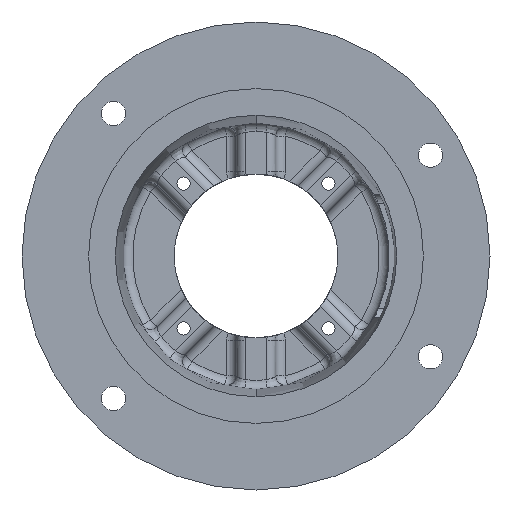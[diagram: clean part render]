
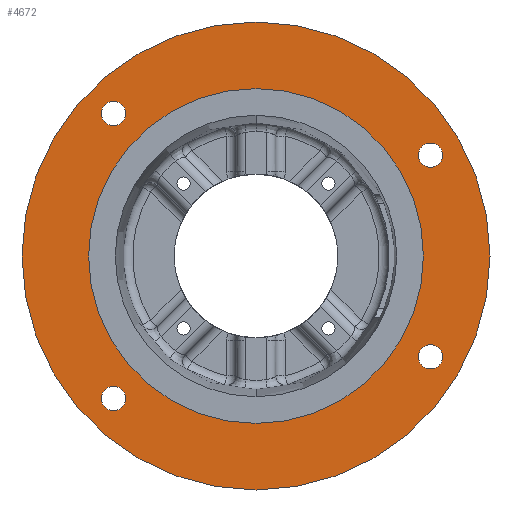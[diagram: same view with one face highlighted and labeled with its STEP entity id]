
A CAD part, front view. The second image highlights one B-rep face of the part: STEP entity #4672.
In plain terms, the highlighted planar face has unit normal (0, -1, 0).
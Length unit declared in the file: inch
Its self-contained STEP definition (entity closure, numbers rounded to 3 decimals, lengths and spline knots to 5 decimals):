
#104 = EDGE_LOOP ( 'NONE', ( #2105, #206 ) ) ;
#183 = CIRCLE ( 'NONE', #6042, 3.2195 ) ;
#206 = ORIENTED_EDGE ( 'NONE', *, *, #294, .F. ) ;
#294 = EDGE_CURVE ( 'NONE', #3599, #5653, #3056, .T. ) ;
#295 = CARTESIAN_POINT ( 'NONE',  ( 0., 0., -4.5 ) ) ;
#361 = CARTESIAN_POINT ( 'NONE',  ( 0., 0., -3.2195 ) ) ;
#370 = ORIENTED_EDGE ( 'NONE', *, *, #3807, .F. ) ;
#421 = ORIENTED_EDGE ( 'NONE', *, *, #2119, .F. ) ;
#427 = EDGE_CURVE ( 'NONE', #2484, #4264, #2728, .T. ) ;
#430 = DIRECTION ( 'NONE',  ( 0., -1., 0. ) ) ;
#449 = CARTESIAN_POINT ( 'NONE',  ( 3.35585, 0., -2.17187 ) ) ;
#458 = CARTESIAN_POINT ( 'NONE',  ( -2.74004, 0., -2.97441 ) ) ;
#573 = AXIS2_PLACEMENT_3D ( 'NONE', #2846, #6318, #3346 ) ;
#578 = CIRCLE ( 'NONE', #5591, 4.5 ) ;
#608 = CARTESIAN_POINT ( 'NONE',  ( -2.74004, 0., 2.74004 ) ) ;
#736 = CARTESIAN_POINT ( 'NONE',  ( 0., 0., 0. ) ) ;
#787 = DIRECTION ( 'NONE',  ( 0., -1., 0. ) ) ;
#865 = CIRCLE ( 'NONE', #2698, 0.23437 ) ;
#874 = EDGE_CURVE ( 'NONE', #3558, #6349, #1633, .T. ) ;
#998 = EDGE_CURVE ( 'NONE', #5653, #3599, #865, .T. ) ;
#1080 = CARTESIAN_POINT ( 'NONE',  ( -2.74004, 0., 2.50566 ) ) ;
#1089 = DIRECTION ( 'NONE',  ( 0., 0., -1. ) ) ;
#1219 = DIRECTION ( 'NONE',  ( 0., 0., -1. ) ) ;
#1239 = FACE_BOUND ( 'NONE', #6165, .T. ) ;
#1355 = CARTESIAN_POINT ( 'NONE',  ( 0., 0., 4.5 ) ) ;
#1465 = VERTEX_POINT ( 'NONE', #295 ) ;
#1565 = EDGE_LOOP ( 'NONE', ( #421, #5114 ) ) ;
#1633 = CIRCLE ( 'NONE', #6154, 0.23438 ) ;
#1756 = DIRECTION ( 'NONE',  ( 0., -1., 0. ) ) ;
#1770 = VERTEX_POINT ( 'NONE', #5800 ) ;
#1890 = CIRCLE ( 'NONE', #573, 0.23438 ) ;
#1955 = AXIS2_PLACEMENT_3D ( 'NONE', #5493, #2516, #5977 ) ;
#1962 = EDGE_CURVE ( 'NONE', #6349, #3558, #6309, .T. ) ;
#1967 = AXIS2_PLACEMENT_3D ( 'NONE', #2923, #6393, #3427 ) ;
#2008 = AXIS2_PLACEMENT_3D ( 'NONE', #608, #4067, #1089 ) ;
#2047 = CIRCLE ( 'NONE', #1967, 0.23438 ) ;
#2105 = ORIENTED_EDGE ( 'NONE', *, *, #998, .F. ) ;
#2119 = EDGE_CURVE ( 'NONE', #2887, #1770, #1890, .T. ) ;
#2258 = EDGE_LOOP ( 'NONE', ( #5312, #2386 ) ) ;
#2348 = EDGE_LOOP ( 'NONE', ( #3781, #370 ) ) ;
#2377 = DIRECTION ( 'NONE',  ( 0., -1., 0. ) ) ;
#2386 = ORIENTED_EDGE ( 'NONE', *, *, #5487, .F. ) ;
#2484 = VERTEX_POINT ( 'NONE', #361 ) ;
#2516 = DIRECTION ( 'NONE',  ( 0., -1., 0. ) ) ;
#2531 = VERTEX_POINT ( 'NONE', #1355 ) ;
#2535 = CARTESIAN_POINT ( 'NONE',  ( 0., 0., 0. ) ) ;
#2574 = FACE_BOUND ( 'NONE', #104, .T. ) ;
#2668 = CARTESIAN_POINT ( 'NONE',  ( -2.74004, 0., 2.97441 ) ) ;
#2686 = DIRECTION ( 'NONE',  ( 0., -1., 0. ) ) ;
#2696 = EDGE_CURVE ( 'NONE', #1770, #2887, #6300, .T. ) ;
#2698 = AXIS2_PLACEMENT_3D ( 'NONE', #5661, #2686, #6159 ) ;
#2728 = CIRCLE ( 'NONE', #1955, 3.2195 ) ;
#2774 = EDGE_LOOP ( 'NONE', ( #6070, #4016 ) ) ;
#2846 = CARTESIAN_POINT ( 'NONE',  ( 3.35585, 0., -1.9375 ) ) ;
#2887 = VERTEX_POINT ( 'NONE', #449 ) ;
#2898 = EDGE_CURVE ( 'NONE', #5462, #4447, #2047, .T. ) ;
#2923 = CARTESIAN_POINT ( 'NONE',  ( 3.35585, 0., 1.9375 ) ) ;
#2939 = CARTESIAN_POINT ( 'NONE',  ( -2.74004, 0., -2.74004 ) ) ;
#3035 = DIRECTION ( 'NONE',  ( 0., 0., -1. ) ) ;
#3056 = CIRCLE ( 'NONE', #5726, 0.23437 ) ;
#3143 = PLANE ( 'NONE',  #4642 ) ;
#3159 = DIRECTION ( 'NONE',  ( 0., 0., 1. ) ) ;
#3346 = DIRECTION ( 'NONE',  ( 0., 0., -1. ) ) ;
#3377 = CARTESIAN_POINT ( 'NONE',  ( 3.35585, 0., 2.17188 ) ) ;
#3385 = CARTESIAN_POINT ( 'NONE',  ( -2.74004, 0., 2.74004 ) ) ;
#3427 = DIRECTION ( 'NONE',  ( 0., 0., -1. ) ) ;
#3442 = DIRECTION ( 'NONE',  ( 0., 0., -1. ) ) ;
#3558 = VERTEX_POINT ( 'NONE', #1080 ) ;
#3591 = CARTESIAN_POINT ( 'NONE',  ( -2.74004, 0., -2.50566 ) ) ;
#3599 = VERTEX_POINT ( 'NONE', #3591 ) ;
#3614 = EDGE_CURVE ( 'NONE', #1465, #2531, #4830, .T. ) ;
#3640 = CARTESIAN_POINT ( 'NONE',  ( -4.5, 0., 0. ) ) ;
#3677 = AXIS2_PLACEMENT_3D ( 'NONE', #5355, #2377, #5848 ) ;
#3757 = CARTESIAN_POINT ( 'NONE',  ( 3.35585, 0., -1.9375 ) ) ;
#3781 = ORIENTED_EDGE ( 'NONE', *, *, #2898, .F. ) ;
#3793 = ORIENTED_EDGE ( 'NONE', *, *, #874, .F. ) ;
#3807 = EDGE_CURVE ( 'NONE', #4447, #5462, #4359, .T. ) ;
#3884 = DIRECTION ( 'NONE',  ( 0., 0., -1. ) ) ;
#3886 = FACE_BOUND ( 'NONE', #1565, .T. ) ;
#4016 = ORIENTED_EDGE ( 'NONE', *, *, #5768, .T. ) ;
#4067 = DIRECTION ( 'NONE',  ( 0., -1., 0. ) ) ;
#4186 = DIRECTION ( 'NONE',  ( 0., -1., 0. ) ) ;
#4243 = DIRECTION ( 'NONE',  ( 0., 0., -1. ) ) ;
#4264 = VERTEX_POINT ( 'NONE', #5631 ) ;
#4359 = CIRCLE ( 'NONE', #3677, 0.23438 ) ;
#4447 = VERTEX_POINT ( 'NONE', #3377 ) ;
#4642 = AXIS2_PLACEMENT_3D ( 'NONE', #3640, #6126, #3159 ) ;
#4672 = ADVANCED_FACE ( 'NONE', ( #5201, #3886, #2574, #1239, #6357, #5058 ), #3143, .F. ) ;
#4747 = CARTESIAN_POINT ( 'NONE',  ( 0., 0., 0. ) ) ;
#4830 = CIRCLE ( 'NONE', #6118, 4.5 ) ;
#5058 = FACE_OUTER_BOUND ( 'NONE', #2774, .T. ) ;
#5114 = ORIENTED_EDGE ( 'NONE', *, *, #2696, .F. ) ;
#5201 = FACE_BOUND ( 'NONE', #2348, .T. ) ;
#5241 = DIRECTION ( 'NONE',  ( 0., 0., -1. ) ) ;
#5312 = ORIENTED_EDGE ( 'NONE', *, *, #427, .F. ) ;
#5355 = CARTESIAN_POINT ( 'NONE',  ( 3.35585, 0., 1.9375 ) ) ;
#5462 = VERTEX_POINT ( 'NONE', #6213 ) ;
#5487 = EDGE_CURVE ( 'NONE', #4264, #2484, #183, .T. ) ;
#5493 = CARTESIAN_POINT ( 'NONE',  ( 0., 0., 0. ) ) ;
#5591 = AXIS2_PLACEMENT_3D ( 'NONE', #2535, #6004, #3035 ) ;
#5631 = CARTESIAN_POINT ( 'NONE',  ( 0., 0., 3.2195 ) ) ;
#5653 = VERTEX_POINT ( 'NONE', #458 ) ;
#5661 = CARTESIAN_POINT ( 'NONE',  ( -2.74004, 0., -2.74004 ) ) ;
#5726 = AXIS2_PLACEMENT_3D ( 'NONE', #2939, #6408, #3442 ) ;
#5735 = AXIS2_PLACEMENT_3D ( 'NONE', #3757, #787, #4243 ) ;
#5768 = EDGE_CURVE ( 'NONE', #2531, #1465, #578, .T. ) ;
#5800 = CARTESIAN_POINT ( 'NONE',  ( 3.35585, 0., -1.70312 ) ) ;
#5848 = DIRECTION ( 'NONE',  ( 0., 0., -1. ) ) ;
#5977 = DIRECTION ( 'NONE',  ( 0., 0., -1. ) ) ;
#6004 = DIRECTION ( 'NONE',  ( 0., -1., 0. ) ) ;
#6042 = AXIS2_PLACEMENT_3D ( 'NONE', #4747, #1756, #5241 ) ;
#6062 = ORIENTED_EDGE ( 'NONE', *, *, #1962, .F. ) ;
#6070 = ORIENTED_EDGE ( 'NONE', *, *, #3614, .T. ) ;
#6118 = AXIS2_PLACEMENT_3D ( 'NONE', #736, #4186, #1219 ) ;
#6126 = DIRECTION ( 'NONE',  ( 0., 1., 0. ) ) ;
#6154 = AXIS2_PLACEMENT_3D ( 'NONE', #3385, #430, #3884 ) ;
#6159 = DIRECTION ( 'NONE',  ( 0., 0., -1. ) ) ;
#6165 = EDGE_LOOP ( 'NONE', ( #3793, #6062 ) ) ;
#6213 = CARTESIAN_POINT ( 'NONE',  ( 3.35585, 0., 1.70313 ) ) ;
#6300 = CIRCLE ( 'NONE', #5735, 0.23438 ) ;
#6309 = CIRCLE ( 'NONE', #2008, 0.23438 ) ;
#6318 = DIRECTION ( 'NONE',  ( 0., -1., 0. ) ) ;
#6349 = VERTEX_POINT ( 'NONE', #2668 ) ;
#6357 = FACE_BOUND ( 'NONE', #2258, .T. ) ;
#6393 = DIRECTION ( 'NONE',  ( 0., -1., 0. ) ) ;
#6408 = DIRECTION ( 'NONE',  ( 0., -1., 0. ) ) ;
